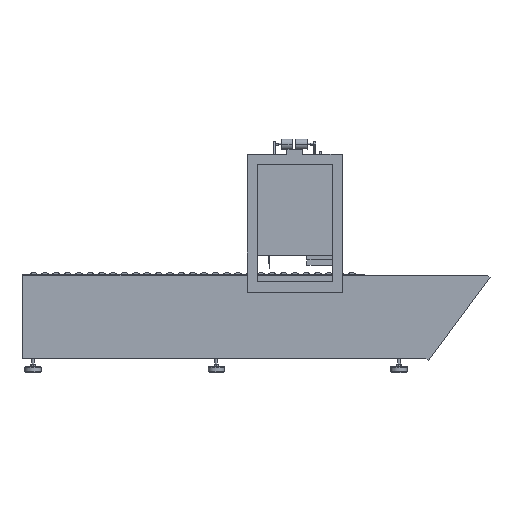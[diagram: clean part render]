
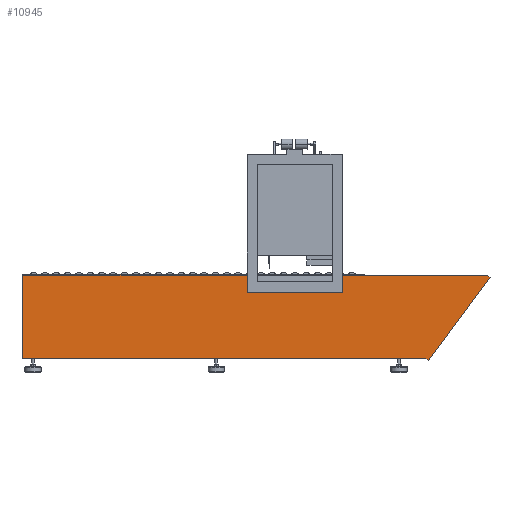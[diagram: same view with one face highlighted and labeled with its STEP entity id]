
A CAD part, front view. The second image highlights one B-rep face of the part: STEP entity #10945.
In plain terms, the highlighted planar face has unit normal (0, -1, 0) as drawn and (0, 0, -1) by its records, which use the part's own axes.
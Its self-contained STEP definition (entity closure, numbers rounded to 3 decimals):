
#592=CARTESIAN_POINT('Vertex',(279.672,604.54,963.896)) ;
#595=CARTESIAN_POINT('Line Origine',(279.672,625.485,963.896)) ;
#599=CARTESIAN_POINT('Vertex',(279.672,646.431,963.896)) ;
#640=CARTESIAN_POINT('Vertex',(513.352,646.431,963.896)) ;
#643=CARTESIAN_POINT('Line Origine',(513.352,625.485,963.896)) ;
#647=CARTESIAN_POINT('Vertex',(513.352,604.54,963.896)) ;
#1082=CARTESIAN_POINT('Axis2P3D Location',(226.252,646.431,963.896)) ;
#1131=CARTESIAN_POINT('Vertex',(1064.452,646.431,963.896)) ;
#1134=CARTESIAN_POINT('Line Origine',(788.902,646.431,963.896)) ;
#1149=CARTESIAN_POINT('Line Origine',(101.179,646.431,963.896)) ;
#1153=CARTESIAN_POINT('Vertex',(-77.314,646.431,963.896)) ;
#1288=CARTESIAN_POINT('Vertex',(1064.452,441.099,963.896)) ;
#1291=CARTESIAN_POINT('Line Origine',(1064.452,543.765,963.896)) ;
#9705=CARTESIAN_POINT('Line Origine',(70.784,438.841,963.896)) ;
#9709=CARTESIAN_POINT('Vertex',(67.716,436.582,963.896)) ;
#9711=CARTESIAN_POINT('Vertex',(73.852,441.099,963.896)) ;
#9745=CARTESIAN_POINT('Line Origine',(-7.867,539.248,963.896)) ;
#9749=CARTESIAN_POINT('Vertex',(-83.45,641.913,963.896)) ;
#10532=CARTESIAN_POINT('Line Origine',(569.152,441.099,963.896)) ;
#10617=CARTESIAN_POINT('Line Origine',(-80.382,644.172,963.896)) ;
#10916=CARTESIAN_POINT('Line Origine',(396.512,604.54,963.896)) ;
#596=DIRECTION('Vector Direction',(0.,1.,0.)) ;
#644=DIRECTION('Vector Direction',(0.,1.,0.)) ;
#1083=DIRECTION('Axis2P3D Direction',(0.,0.,-1.)) ;
#1084=DIRECTION('Axis2P3D XDirection',(1.,0.,0.)) ;
#1135=DIRECTION('Vector Direction',(-1.,0.,0.)) ;
#1150=DIRECTION('Vector Direction',(-1.,0.,0.)) ;
#1292=DIRECTION('Vector Direction',(0.,1.,0.)) ;
#9706=DIRECTION('Vector Direction',(0.805,0.593,0.)) ;
#9746=DIRECTION('Vector Direction',(0.593,-0.805,0.)) ;
#10533=DIRECTION('Vector Direction',(1.,0.,0.)) ;
#10618=DIRECTION('Vector Direction',(0.805,0.593,0.)) ;
#10917=DIRECTION('Vector Direction',(1.,0.,0.)) ;
#1085=AXIS2_PLACEMENT_3D('Plane Axis2P3D',#1082,#1083,#1084) ;
#10934=ORIENTED_EDGE('',*,*,#10920,.T.) ;
#10935=ORIENTED_EDGE('',*,*,#649,.T.) ;
#10936=ORIENTED_EDGE('',*,*,#1138,.F.) ;
#10937=ORIENTED_EDGE('',*,*,#1295,.F.) ;
#10938=ORIENTED_EDGE('',*,*,#10536,.F.) ;
#10939=ORIENTED_EDGE('',*,*,#9713,.F.) ;
#10940=ORIENTED_EDGE('',*,*,#9751,.F.) ;
#10941=ORIENTED_EDGE('',*,*,#10621,.T.) ;
#10942=ORIENTED_EDGE('',*,*,#1155,.F.) ;
#10943=ORIENTED_EDGE('',*,*,#601,.F.) ;
#597=VECTOR('Line Direction',#596,1.) ;
#645=VECTOR('Line Direction',#644,1.) ;
#1136=VECTOR('Line Direction',#1135,1.) ;
#1151=VECTOR('Line Direction',#1150,1.) ;
#1293=VECTOR('Line Direction',#1292,1.) ;
#9707=VECTOR('Line Direction',#9706,1.) ;
#9747=VECTOR('Line Direction',#9746,1.) ;
#10534=VECTOR('Line Direction',#10533,1.) ;
#10619=VECTOR('Line Direction',#10618,1.) ;
#10918=VECTOR('Line Direction',#10917,1.) ;
#10945=ADVANCED_FACE('Body',(#10944),#1086,.T.) ;
#601=EDGE_CURVE('',#593,#600,#598,.T.) ;
#649=EDGE_CURVE('',#648,#641,#646,.T.) ;
#1138=EDGE_CURVE('',#1132,#641,#1137,.T.) ;
#1155=EDGE_CURVE('',#600,#1154,#1152,.T.) ;
#1295=EDGE_CURVE('',#1289,#1132,#1294,.T.) ;
#9713=EDGE_CURVE('',#9710,#9712,#9708,.T.) ;
#9751=EDGE_CURVE('',#9750,#9710,#9748,.T.) ;
#10536=EDGE_CURVE('',#9712,#1289,#10535,.T.) ;
#10621=EDGE_CURVE('',#9750,#1154,#10620,.T.) ;
#10920=EDGE_CURVE('',#593,#648,#10919,.T.) ;
#10933=EDGE_LOOP('',(#10934,#10935,#10936,#10937,#10938,#10939,#10940,#10941,#10942,#10943)) ;
#10944=FACE_OUTER_BOUND('',#10933,.T.) ;
#598=LINE('Line',#595,#597) ;
#646=LINE('Line',#643,#645) ;
#1137=LINE('Line',#1134,#1136) ;
#1152=LINE('Line',#1149,#1151) ;
#1294=LINE('Line',#1291,#1293) ;
#9708=LINE('Line',#9705,#9707) ;
#9748=LINE('Line',#9745,#9747) ;
#10535=LINE('Line',#10532,#10534) ;
#10620=LINE('Line',#10617,#10619) ;
#10919=LINE('Line',#10916,#10918) ;
#1086=PLANE('',#1085) ;
#593=VERTEX_POINT('',#592) ;
#600=VERTEX_POINT('',#599) ;
#641=VERTEX_POINT('',#640) ;
#648=VERTEX_POINT('',#647) ;
#1132=VERTEX_POINT('',#1131) ;
#1154=VERTEX_POINT('',#1153) ;
#1289=VERTEX_POINT('',#1288) ;
#9710=VERTEX_POINT('',#9709) ;
#9712=VERTEX_POINT('',#9711) ;
#9750=VERTEX_POINT('',#9749) ;
